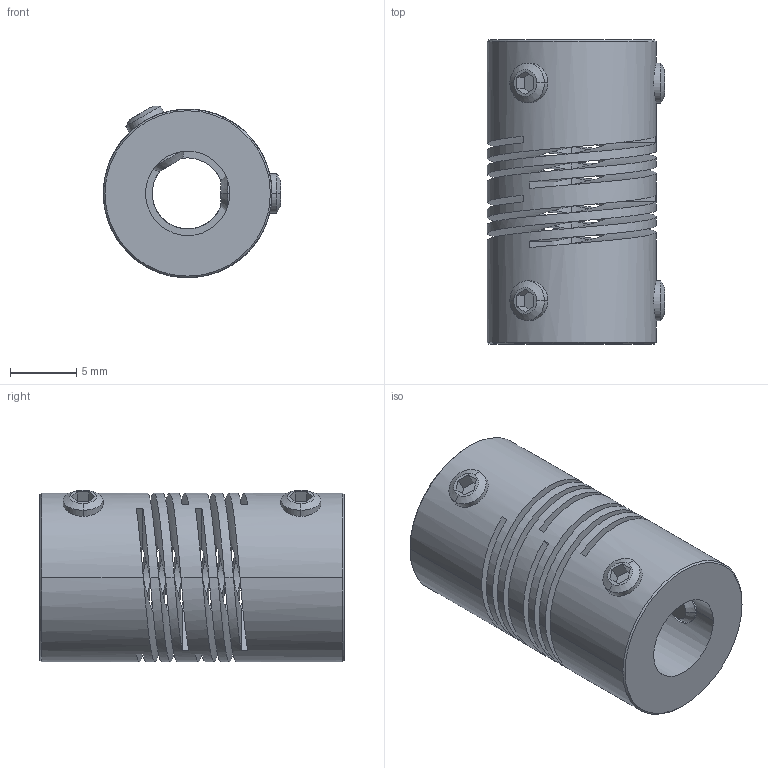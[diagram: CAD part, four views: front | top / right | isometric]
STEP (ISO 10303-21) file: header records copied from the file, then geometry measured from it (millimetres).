
FILE_DESCRIPTION((''),'2;1');
FILE_NAME('706_13_ASM','2006-12-06T',('Gary Melling'),(''),'PRO/ENGINEER BY PARAMETRIC TECHNOLOGY CORPORATION, 2006240','PRO/ENGINEER BY PARAMETRIC TECHNOLOGY CORPORATION, 2006240','');
FILE_SCHEMA(('CONFIG_CONTROL_DESIGN'));
Length unit declared in the file: millimetre
Products named in the file (3): 706_13; GS_3; 706_13_ASM
Assembly tree (5 placements, depth 2):
  706_13_ASM
    706_13
    GS_3  x4
Bounding box: 13.35 x 22.9 x 12.91 mm (x, y, z)
Volume: 1978.1 mm3; surface area: 2935 mm2
Topology: 5 solids, 5 shells, 120 faces, 328 edges, 208 vertices
Faces by surface type: plane 52, cylinder 36, cone 20, bspline 12
Entity records: 4639 total; most frequent: CARTESIAN_POINT 2616, ORIENTED_EDGE 464, DIRECTION 318, EDGE_CURVE 232, VERTEX_POINT 148, VECTOR 120, LINE 120, AXIS2_PLACEMENT_3D 99
